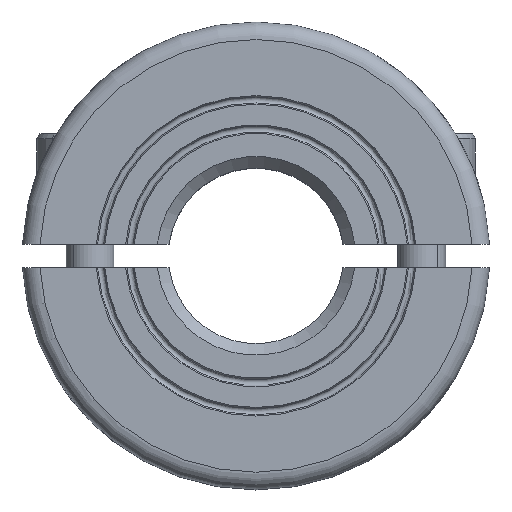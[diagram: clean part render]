
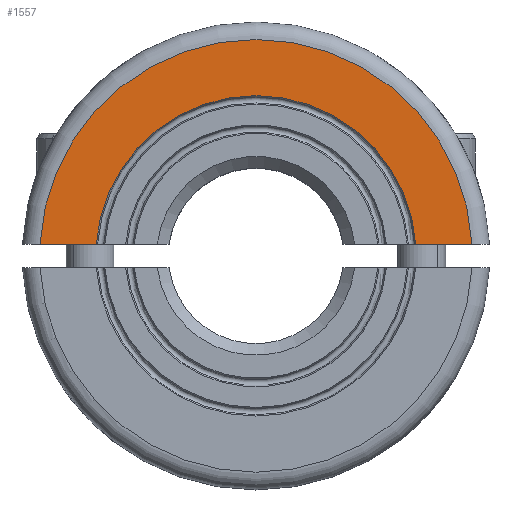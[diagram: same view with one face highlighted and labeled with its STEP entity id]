
A CAD part, top view. The second image highlights one B-rep face of the part: STEP entity #1557.
In plain terms, the highlighted planar face has unit normal (0, 0, 1).
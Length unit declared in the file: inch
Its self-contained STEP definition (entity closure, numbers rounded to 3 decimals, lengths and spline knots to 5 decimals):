
#180=CARTESIAN_POINT('',(0.43636,0.02362,
0.35433));
#330=DIRECTION('',(-1.,0.,0.));
#331=VECTOR('',#330,0.1136);
#332=CARTESIAN_POINT('',(-0.32276,0.02362,
0.35433));
#333=LINE('',#332,#331);
#429=CARTESIAN_POINT('',(0.,0.,0.35433));
#430=DIRECTION('',(0.,0.,1.));
#431=DIRECTION('',(0.999,0.054,0.));
#432=AXIS2_PLACEMENT_3D('',#429,#430,#431);
#434=DIRECTION('',(1.,0.,0.));
#435=VECTOR('',#434,0.1136);
#436=CARTESIAN_POINT('',(0.32276,0.02362,
0.35433));
#437=LINE('',#436,#435);
#443=CARTESIAN_POINT('',(0.,0.,0.35433));
#444=DIRECTION('',(0.,0.,-1.));
#445=DIRECTION('',(-0.997,0.073,0.));
#446=AXIS2_PLACEMENT_3D('',#443,#444,#445);
#448=CARTESIAN_POINT('',(0.32276,0.02362,
0.35433));
#847=VERTEX_POINT('',#180);
#850=VERTEX_POINT('',#448);
#897=CARTESIAN_POINT('',(-0.32276,0.02362,
0.35433));
#898=CARTESIAN_POINT('',(-0.43636,0.02362,
0.35433));
#899=VERTEX_POINT('',#897);
#900=VERTEX_POINT('',#898);
#1545=CARTESIAN_POINT('',(0.,0.,0.35433));
#1546=DIRECTION('',(0.,0.,1.));
#1547=DIRECTION('',(0.707,-0.707,0.));
#1548=AXIS2_PLACEMENT_3D('',#1545,#1546,#1547);
#1549=PLANE('',#1548);
#1551=ORIENTED_EDGE('',*,*,#1550,.F.);
#1552=ORIENTED_EDGE('',*,*,#1511,.T.);
#1553=ORIENTED_EDGE('',*,*,#1189,.F.);
#1554=ORIENTED_EDGE('',*,*,#1212,.F.);
#1555=EDGE_LOOP('',(#1551,#1552,#1553,#1554));
#1556=FACE_OUTER_BOUND('',#1555,.F.);
#433=CIRCLE('',#432,0.43701);
#447=CIRCLE('',#446,0.32362);
#1189=EDGE_CURVE('',#847,#900,#433,.T.);
#1212=EDGE_CURVE('',#850,#847,#437,.T.);
#1511=EDGE_CURVE('',#899,#900,#333,.T.);
#1550=EDGE_CURVE('',#899,#850,#447,.T.);
#1557=ADVANCED_FACE('',(#1556),#1549,.T.);
